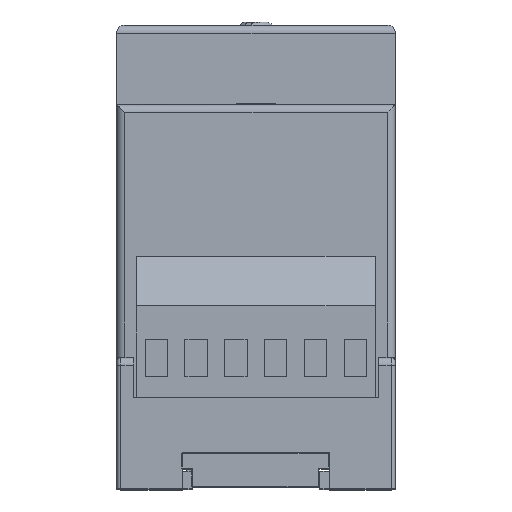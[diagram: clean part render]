
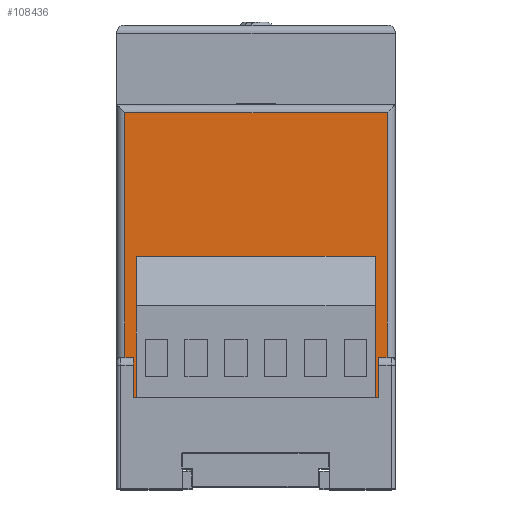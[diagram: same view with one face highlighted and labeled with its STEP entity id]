
A CAD part, top view. The second image highlights one B-rep face of the part: STEP entity #108436.
In plain terms, the highlighted planar face has unit normal (0, 0, 1).
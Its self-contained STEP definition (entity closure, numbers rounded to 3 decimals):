
#9538 = CARTESIAN_POINT ( 'NONE',  ( 1., 30.8, 0. ) ) ;
#9752 = CARTESIAN_POINT ( 'NONE',  ( 34., 31.8, 0. ) ) ;
#10858 = DIRECTION ( 'NONE',  ( -1., 0., 0. ) ) ;
#12288 = ORIENTED_EDGE ( 'NONE', *, *, #36642, .T. ) ;
#13745 = CARTESIAN_POINT ( 'NONE',  ( 1.5, -9., 0. ) ) ;
#14893 = VERTEX_POINT ( 'NONE', #58032 ) ;
#19347 = CARTESIAN_POINT ( 'NONE',  ( 1.5, -5., 0. ) ) ;
#21380 = LINE ( 'NONE', #59649, #137342 ) ;
#22413 = CARTESIAN_POINT ( 'NONE',  ( 1., 31.8, 0. ) ) ;
#25322 = VECTOR ( 'NONE', #136010, 1000. ) ;
#27485 = VERTEX_POINT ( 'NONE', #13745 ) ;
#29322 = LINE ( 'NONE', #50165, #145263 ) ;
#32969 = CARTESIAN_POINT ( 'NONE',  ( 32., -5., 0. ) ) ;
#34773 = ORIENTED_EDGE ( 'NONE', *, *, #49434, .T. ) ;
#36642 = EDGE_CURVE ( 'NONE', #14893, #42137, #21380, .T. ) ;
#37350 = VERTEX_POINT ( 'NONE', #106128 ) ;
#38176 = EDGE_CURVE ( 'NONE', #88135, #112131, #29322, .T. ) ;
#40018 = EDGE_CURVE ( 'NONE', #112131, #139372, #41185, .T. ) ;
#41185 = LINE ( 'NONE', #103646, #25322 ) ;
#42137 = VERTEX_POINT ( 'NONE', #9538 ) ;
#48014 = ORIENTED_EDGE ( 'NONE', *, *, #132250, .T. ) ;
#49434 = EDGE_CURVE ( 'NONE', #139372, #14893, #113708, .T. ) ;
#50165 = CARTESIAN_POINT ( 'NONE',  ( 33.5, -5., 0. ) ) ;
#54770 = VERTEX_POINT ( 'NONE', #138929 ) ;
#55943 = EDGE_LOOP ( 'NONE', ( #120084, #90006, #94166, #48014, #94578, #124168, #60660, #139527, #34773, #12288 ) ) ;
#58032 = CARTESIAN_POINT ( 'NONE',  ( 34., 30.8, 0. ) ) ;
#58894 = VERTEX_POINT ( 'NONE', #127629 ) ;
#59649 = CARTESIAN_POINT ( 'NONE',  ( 0., 30.8, 0. ) ) ;
#59860 = CARTESIAN_POINT ( 'NONE',  ( 1.5, -6.5, 0. ) ) ;
#60660 = ORIENTED_EDGE ( 'NONE', *, *, #38176, .T. ) ;
#62326 = VECTOR ( 'NONE', #65017, 1000. ) ;
#62424 = VERTEX_POINT ( 'NONE', #73298 ) ;
#64146 = CARTESIAN_POINT ( 'NONE',  ( 33.5, -9., 0. ) ) ;
#65017 = DIRECTION ( 'NONE',  ( 0., -1., 0. ) ) ;
#69250 = CARTESIAN_POINT ( 'NONE',  ( 1.5, -9., 0. ) ) ;
#70160 = DIRECTION ( 'NONE',  ( 0.707, 0.707, 0. ) ) ;
#70870 = VECTOR ( 'NONE', #145197, 1000. ) ;
#72885 = DIRECTION ( 'NONE',  ( -1., 0., 0. ) ) ;
#73298 = CARTESIAN_POINT ( 'NONE',  ( 1., -9., 0. ) ) ;
#74883 = VECTOR ( 'NONE', #119317, 1000. ) ;
#78549 = VECTOR ( 'NONE', #133383, 1000. ) ;
#79545 = AXIS2_PLACEMENT_3D ( 'NONE', #135068, #90013, #10858 ) ;
#80622 = DIRECTION ( 'NONE',  ( 1., 0., 0. ) ) ;
#83963 = VECTOR ( 'NONE', #109494, 1000. ) ;
#84204 = EDGE_CURVE ( 'NONE', #54770, #58894, #131204, .T. ) ;
#87216 = VECTOR ( 'NONE', #70160, 1000. ) ;
#88135 = VERTEX_POINT ( 'NONE', #116122 ) ;
#90006 = ORIENTED_EDGE ( 'NONE', *, *, #130176, .T. ) ;
#90013 = DIRECTION ( 'NONE',  ( 0., 0., -1. ) ) ;
#90978 = PLANE ( 'NONE',  #79545 ) ;
#94166 = ORIENTED_EDGE ( 'NONE', *, *, #138026, .F. ) ;
#94578 = ORIENTED_EDGE ( 'NONE', *, *, #84204, .F. ) ;
#103304 = CARTESIAN_POINT ( 'NONE',  ( 34., -9., 0. ) ) ;
#103646 = CARTESIAN_POINT ( 'NONE',  ( 35., -9., 0. ) ) ;
#106128 = CARTESIAN_POINT ( 'NONE',  ( 1.5, -6.5, 0. ) ) ;
#108091 = DIRECTION ( 'NONE',  ( 0., -1., 0. ) ) ;
#108436 = ADVANCED_FACE ( 'NONE', ( #123887 ), #90978, .F. ) ;
#109494 = DIRECTION ( 'NONE',  ( 0., 1., 0. ) ) ;
#110348 = CARTESIAN_POINT ( 'NONE',  ( 1.5, -5., 0. ) ) ;
#112131 = VERTEX_POINT ( 'NONE', #64146 ) ;
#113707 = LINE ( 'NONE', #69250, #136532 ) ;
#113708 = LINE ( 'NONE', #9752, #83963 ) ;
#116122 = CARTESIAN_POINT ( 'NONE',  ( 33.5, -6.5, 0. ) ) ;
#119317 = DIRECTION ( 'NONE',  ( 0.707, -0.707, 0. ) ) ;
#120084 = ORIENTED_EDGE ( 'NONE', *, *, #124806, .T. ) ;
#123887 = FACE_OUTER_BOUND ( 'NONE', #55943, .T. ) ;
#124168 = ORIENTED_EDGE ( 'NONE', *, *, #137020, .T. ) ;
#124806 = EDGE_CURVE ( 'NONE', #42137, #62424, #142844, .T. ) ;
#127278 = LINE ( 'NONE', #19347, #62326 ) ;
#127629 = CARTESIAN_POINT ( 'NONE',  ( 3., -5., 0. ) ) ;
#130176 = EDGE_CURVE ( 'NONE', #62424, #27485, #113707, .T. ) ;
#131204 = LINE ( 'NONE', #110348, #78549 ) ;
#132250 = EDGE_CURVE ( 'NONE', #37350, #58894, #132769, .T. ) ;
#132769 = LINE ( 'NONE', #59860, #87216 ) ;
#133383 = DIRECTION ( 'NONE',  ( -1., 0., 0. ) ) ;
#134579 = LINE ( 'NONE', #32969, #74883 ) ;
#135068 = CARTESIAN_POINT ( 'NONE',  ( 0., 31.8, 0. ) ) ;
#136010 = DIRECTION ( 'NONE',  ( 1., 0., 0. ) ) ;
#136532 = VECTOR ( 'NONE', #80622, 1000. ) ;
#137020 = EDGE_CURVE ( 'NONE', #54770, #88135, #134579, .T. ) ;
#137342 = VECTOR ( 'NONE', #72885, 1000. ) ;
#138026 = EDGE_CURVE ( 'NONE', #37350, #27485, #127278, .T. ) ;
#138929 = CARTESIAN_POINT ( 'NONE',  ( 32., -5., 0. ) ) ;
#139372 = VERTEX_POINT ( 'NONE', #103304 ) ;
#139527 = ORIENTED_EDGE ( 'NONE', *, *, #40018, .T. ) ;
#142844 = LINE ( 'NONE', #22413, #70870 ) ;
#145197 = DIRECTION ( 'NONE',  ( 0., -1., 0. ) ) ;
#145263 = VECTOR ( 'NONE', #108091, 1000. ) ;
